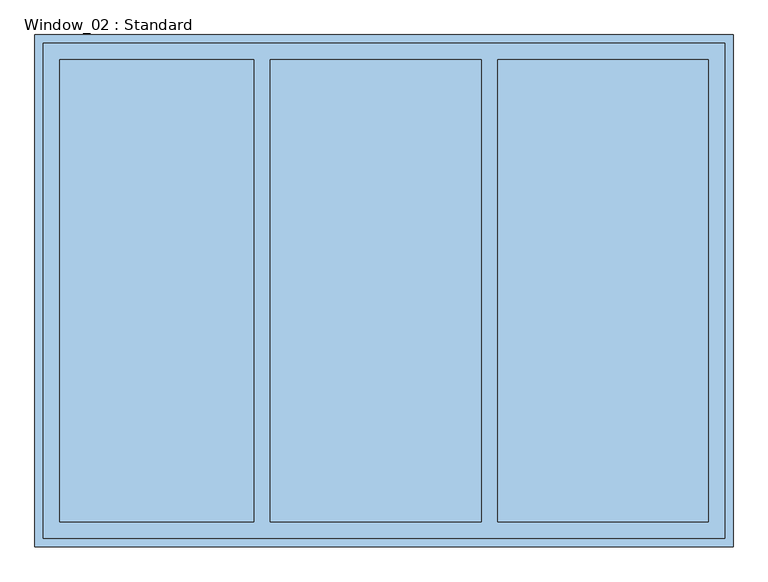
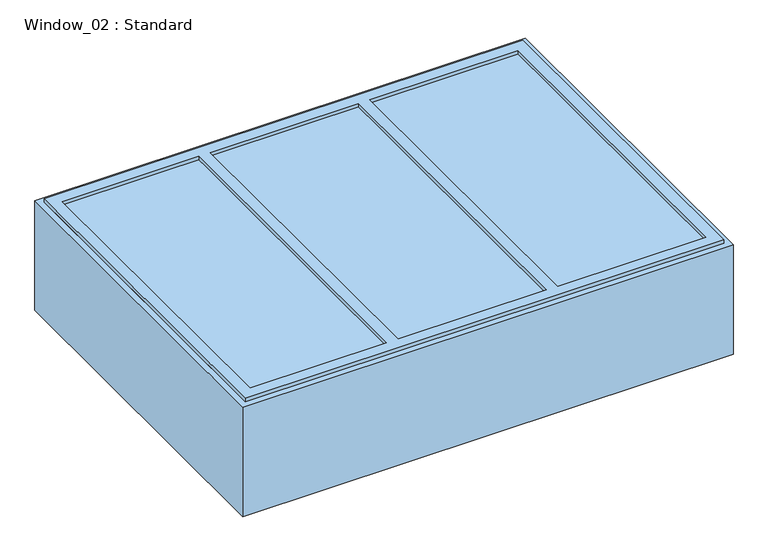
"""IFC4 building model written with IfcOpenShell, lengths in millimetres: window geometry, Window_02 : Standard."""

from ifc_helpers import new_model, si_unit, frame, origin, origin_with_axes, place, context, project, spatial, polyline, outline, extrude, source, transform, mapped, element, save


def window_02_standard_79e32c66(model_context):
    return source(origin(), model_context, "Body", "SweptSolid", [
        extrude(outline(polyline([(-825.0, -600.0), (-825.0, 600.0), (825.0, 600.0), (825.0, -600.0), (-825.0, -600.0)]), holes=[polyline([(-785.0, 560.0), (-785.0, -560.0), (-315.0, -560.0), (-315.0, 560.0), (-785.0, 560.0)]), polyline([(235.0, 560.0), (-275.0, 560.0), (-275.0, -560.0), (235.0, -560.0), (235.0, 560.0)]), polyline([(275.0, -560.0), (785.0, -560.0), (785.0, 560.0), (275.0, 560.0), (275.0, -560.0)])]), frame((0.0, 0.0, 395.094128), z_axis=(0.0, 0.0, 1.0), x_axis=(1.0, 0.0, 0.0)), (0.0, 0.0, 1.0), 17.0543259),
        extrude(outline(polyline([(-785.0, 560.0), (785.0, 560.0), (785.0, -560.0), (-785.0, -560.0), (-785.0, 560.0)])), frame((0.0, 0.0, 395.094128), z_axis=(0.0, 0.0, 1.0), x_axis=(1.0, 0.0, 0.0)), (0.0, 0.0, 1.0), 4.905872),
        extrude(outline(polyline([(825.0, 600.0), (825.0, -600.0), (-825.0, -600.0), (-825.0, 600.0), (825.0, 600.0)]), holes=[polyline([(-785.0, 560.0), (-785.0, -560.0), (785.0, -560.0), (785.0, 560.0), (-785.0, 560.0)])]), frame((0.0, 0.0, 330.0), z_axis=(0.0, 0.0, 1.0), x_axis=(1.0, 0.0, 0.0)), (0.0, 0.0, 1.0), 70.0),
        extrude(outline(polyline([(845.0, 620.0), (845.0, -620.0), (-845.0, -620.0), (-845.0, 620.0), (845.0, 620.0)]), holes=[polyline([(825.0, 600.0), (-825.0, 600.0), (-825.0, -600.0), (825.0, -600.0), (825.0, 600.0)])]), origin_with_axes(), (0.0, 0.0, 1.0), 400.0),
    ])


if __name__ == "__main__":
    model = new_model("IFC4")
    model_context = context("Model", 3, world=origin())
    ifc_project = project(units=[si_unit("LENGTHUNIT", "METRE", prefix="MILLI")], contexts=[model_context])
    site = spatial("IfcSite", under=ifc_project)
    building = spatial("IfcBuilding", under=site)
    placement = place(None, origin())
    window_02_standard_shape = window_02_standard_79e32c66(model_context)
    element("IfcWindow", 1, ObjectType="Window_02 : Standard", at=placement, inside=building, context=model_context, shape_type="MappedRepresentation", body=[
        mapped(window_02_standard_shape, transform((0.0, 0.0, 0.0), x_axis=(1.0, 0.0, 0.0), y_axis=(0.0, 1.0, 0.0), z_axis=(0.0, 0.0, 1.0))),
    ])
    save(model, "model.ifc")
